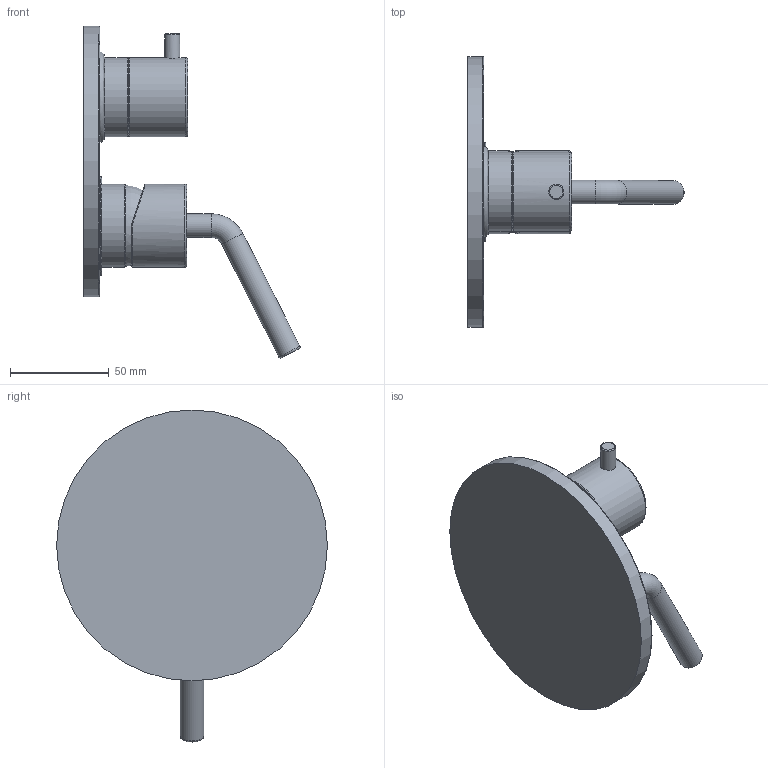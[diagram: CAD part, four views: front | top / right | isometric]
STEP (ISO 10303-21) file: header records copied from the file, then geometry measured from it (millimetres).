
FILE_DESCRIPTION(('STEP AP214'), '1');
FILE_NAME('81CR6911NEW', '', ('UNSPECIFIED'), ('UNSPECIFIED'), 'ASCON STEP Converter 1.6', 'ASCON Math Kernel', '');
FILE_SCHEMA(('AUTOMOTIVE_DESIGN { 1 0 10303 214 3 1 1}'));
Length unit declared in the file: millimetre
Bounding box: 109.4 x 137 x 167.95 mm (x, y, z)
Volume: 256026.7 mm3; surface area: 59331.2 mm2
Topology: 6 solids, 6 shells, 42 faces, 65 edges, 36 vertices
Faces by surface type: plane 16, torus 12, cylinder 10, bspline 4
Full cylindrical faces by diameter (mm): 7.7 x1, 12 x2, 40 x2, 42 x2, 50 x1, 137 x1
Entity records: 5205 total; most frequent: CARTESIAN_POINT 4136, DIRECTION 150, ORIENTED_EDGE 84, AXIS2_PLACEMENT_3D 74, EDGE_LOOP 66, COLOUR_RGB 48, FILL_AREA_STYLE_COLOUR 48, FILL_AREA_STYLE 48
